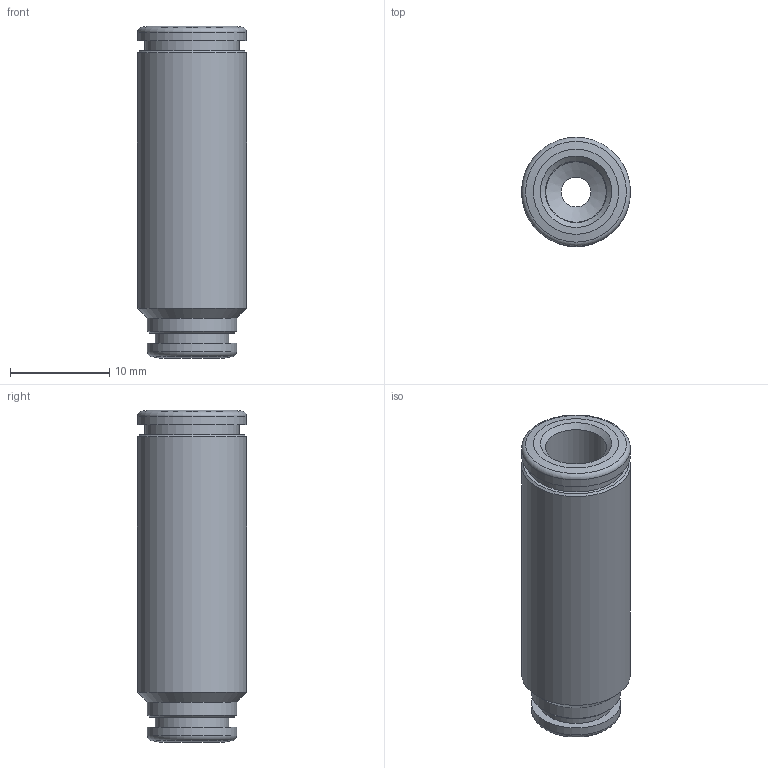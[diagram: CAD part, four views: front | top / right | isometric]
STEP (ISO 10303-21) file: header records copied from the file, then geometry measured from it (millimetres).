
FILE_DESCRIPTION(('Bauteilbeschreibung','HiCAD-Model','HiCAD-STEP-TRANSLATION','Bauteilbeschreibung'),'2;1');
FILE_NAME('B:/ABGLEICH/ZEICHNUNGEN/STEP FÜR INTERNET/STEP/200308_IPSO_03_6-4.STP','2011-07-19T08:36:25+00:00',('Konstrukteur'),('Konstrukteur Firma GmbH'),' HiCAD neXt 2008, Step 3.1.1401.2J ','HiCAD neXt 2008','confidential');
FILE_SCHEMA(('AUTOMOTIVE_DESIGN { 1 2 10303 214 0 1 1 1 }'));
Length unit declared in the file: millimetre
Products named in the file (4): A00308_IPSO_03_6_4; DR6_1_NEU; DR4_1_NEU; R200308_N
Assembly tree (3 placements, depth 2):
  A00308_IPSO_03_6_4
    DR6_1_NEU
    DR4_1_NEU
    R200308_N
Bounding box: 11 x 11 x 33.5 mm (x, y, z)
Volume: 1955.8 mm3; surface area: 2650.3 mm2
Topology: 3 solids, 3 shells, 48 faces, 92 edges, 54 vertices
Faces by surface type: cone 19, cylinder 17, plane 10, torus 2
Full cylindrical faces by diameter (mm): 3 x1, 4.1 x2, 6.1 x1, 6.2 x1, 6.4 x1, 7.3 x1, 7.4 x1, 7.6 x1, 8.3 x1, 9 x3, 9.5 x1, 9.6 x1, 11 x2
Entity records: 1321 total; most frequent: DIRECTION 204, CARTESIAN_POINT 150, AXIS2_PLACEMENT_3D 102, EDGE_LOOP 96, ORIENTED_EDGE 96, COLOUR_RGB 51, PRESENTATION_STYLE_ASSIGNMENT 51, ADVANCED_FACE 48
